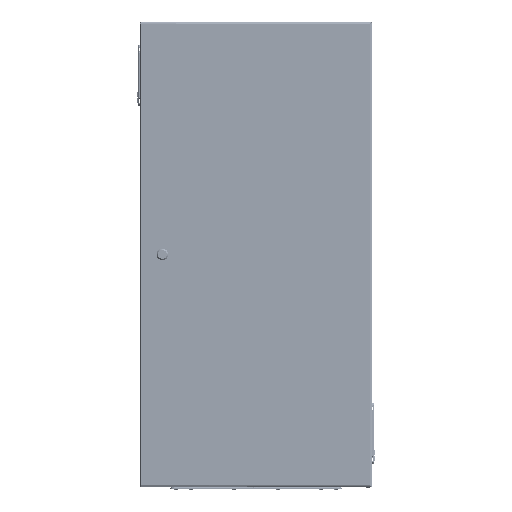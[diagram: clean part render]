
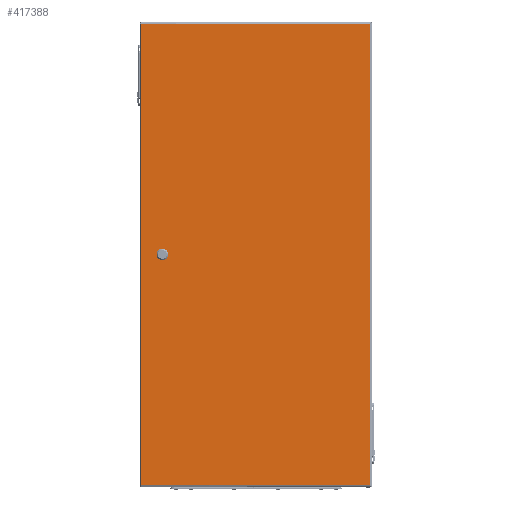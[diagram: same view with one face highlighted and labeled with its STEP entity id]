
A CAD part, top view. The second image highlights one B-rep face of the part: STEP entity #417388.
In plain terms, the highlighted planar face has unit normal (0, 0, 1).
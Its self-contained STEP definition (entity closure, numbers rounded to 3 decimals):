
#387 = LINE ( 'NONE', #442591, #212813 ) ;
#4800 = ORIENTED_EDGE ( 'NONE', *, *, #489202, .F. ) ;
#6138 = DIRECTION ( 'NONE',  ( 1., 0., 0. ) ) ;
#9832 = CARTESIAN_POINT ( 'NONE',  ( -251.6, -5.6, 250. ) ) ;
#21817 = EDGE_LOOP ( 'NONE', ( #524160, #541629, #71434, #228956 ) ) ;
#23372 = FACE_OUTER_BOUND ( 'NONE', #21817, .T. ) ;
#33287 = LINE ( 'NONE', #436936, #366186 ) ;
#33573 = VECTOR ( 'NONE', #6138, 1000. ) ;
#35111 = VERTEX_POINT ( 'NONE', #442048 ) ;
#53249 = VERTEX_POINT ( 'NONE', #526191 ) ;
#55125 = LINE ( 'NONE', #414525, #283568 ) ;
#71434 = ORIENTED_EDGE ( 'NONE', *, *, #151788, .T. ) ;
#75695 = DIRECTION ( 'NONE',  ( -0.707, -0.707, 0. ) ) ;
#76095 = ORIENTED_EDGE ( 'NONE', *, *, #237128, .F. ) ;
#78831 = LINE ( 'NONE', #391052, #235443 ) ;
#80741 = VECTOR ( 'NONE', #573701, 1000. ) ;
#83185 = DIRECTION ( 'NONE',  ( 0., -1., 0. ) ) ;
#84765 = DIRECTION ( 'NONE',  ( -1., 0., 0. ) ) ;
#90523 = CARTESIAN_POINT ( 'NONE',  ( -247.1, 10.1, 250. ) ) ;
#105410 = CARTESIAN_POINT ( 'NONE',  ( -296.959, -595.1, 250. ) ) ;
#111850 = PLANE ( 'NONE',  #332494 ) ;
#146859 = VECTOR ( 'NONE', #75695, 1000. ) ;
#151788 = EDGE_CURVE ( 'NONE', #520123, #460528, #373421, .T. ) ;
#152974 = DIRECTION ( 'NONE',  ( 0.707, 0.707, 0. ) ) ;
#161087 = CARTESIAN_POINT ( 'NONE',  ( -235.9, 10.1, 250. ) ) ;
#168709 = DIRECTION ( 'NONE',  ( 0., 1., 0. ) ) ;
#178777 = LINE ( 'NONE', #90523, #307367 ) ;
#179529 = CARTESIAN_POINT ( 'NONE',  ( -235.9, 10.1, 250. ) ) ;
#188746 = CARTESIAN_POINT ( 'NONE',  ( -247.1, -10.1, 250. ) ) ;
#189459 = CARTESIAN_POINT ( 'NONE',  ( -295.6, 595.1, 250. ) ) ;
#198558 = CARTESIAN_POINT ( 'NONE',  ( -295.6, -595.1, 250. ) ) ;
#200145 = CARTESIAN_POINT ( 'NONE',  ( -235.9, -10.1, 250. ) ) ;
#212813 = VECTOR ( 'NONE', #83185, 1000. ) ;
#214592 = DIRECTION ( 'NONE',  ( 1., 0., 0. ) ) ;
#224221 = LINE ( 'NONE', #188746, #33573 ) ;
#225584 = ORIENTED_EDGE ( 'NONE', *, *, #495076, .F. ) ;
#225978 = VECTOR ( 'NONE', #489558, 1000. ) ;
#228956 = ORIENTED_EDGE ( 'NONE', *, *, #414269, .T. ) ;
#234319 = VERTEX_POINT ( 'NONE', #237969 ) ;
#235443 = VECTOR ( 'NONE', #532411, 1000. ) ;
#237128 = EDGE_CURVE ( 'NONE', #234319, #258181, #371847, .T. ) ;
#237791 = DIRECTION ( 'NONE',  ( 1., 0., 0. ) ) ;
#237969 = CARTESIAN_POINT ( 'NONE',  ( -251.6, 5.6, 250. ) ) ;
#248640 = EDGE_LOOP ( 'NONE', ( #225584, #402489, #4800, #285029, #294332, #298988, #76095, #318426 ) ) ;
#249879 = VERTEX_POINT ( 'NONE', #189459 ) ;
#254612 = CARTESIAN_POINT ( 'NONE',  ( -247.1, -10.1, 250. ) ) ;
#258181 = VERTEX_POINT ( 'NONE', #9832 ) ;
#259238 = EDGE_CURVE ( 'NONE', #249879, #520123, #387, .T. ) ;
#283568 = VECTOR ( 'NONE', #370248, 1000. ) ;
#285029 = ORIENTED_EDGE ( 'NONE', *, *, #417303, .F. ) ;
#288878 = EDGE_CURVE ( 'NONE', #477936, #249879, #55125, .T. ) ;
#293739 = LINE ( 'NONE', #523462, #146859 ) ;
#294332 = ORIENTED_EDGE ( 'NONE', *, *, #472245, .F. ) ;
#298988 = ORIENTED_EDGE ( 'NONE', *, *, #370490, .F. ) ;
#300153 = DIRECTION ( 'NONE',  ( 0., 0., 1. ) ) ;
#301375 = CARTESIAN_POINT ( 'NONE',  ( -235.9, -10.1, 250. ) ) ;
#307367 = VECTOR ( 'NONE', #84765, 1000. ) ;
#318426 = ORIENTED_EDGE ( 'NONE', *, *, #344651, .F. ) ;
#321776 = CARTESIAN_POINT ( 'NONE',  ( -251.6, 5.6, 250. ) ) ;
#332494 = AXIS2_PLACEMENT_3D ( 'NONE', #347244, #300153, #214592 ) ;
#341692 = VECTOR ( 'NONE', #152974, 1000. ) ;
#344651 = EDGE_CURVE ( 'NONE', #470289, #234319, #293739, .T. ) ;
#346685 = LINE ( 'NONE', #161087, #80741 ) ;
#347244 = CARTESIAN_POINT ( 'NONE',  ( -0.5, 0., 250. ) ) ;
#360489 = VECTOR ( 'NONE', #451633, 1000. ) ;
#362565 = LINE ( 'NONE', #448271, #225978 ) ;
#366186 = VECTOR ( 'NONE', #168709, 1000. ) ;
#370248 = DIRECTION ( 'NONE',  ( -1., 0., 0. ) ) ;
#370490 = EDGE_CURVE ( 'NONE', #258181, #581046, #78831, .T. ) ;
#371847 = LINE ( 'NONE', #321776, #360489 ) ;
#373421 = LINE ( 'NONE', #105410, #444735 ) ;
#378876 = CARTESIAN_POINT ( 'NONE',  ( 294.6, 595.1, 250. ) ) ;
#391052 = CARTESIAN_POINT ( 'NONE',  ( -251.6, -5.6, 250. ) ) ;
#402489 = ORIENTED_EDGE ( 'NONE', *, *, #483470, .F. ) ;
#414269 = EDGE_CURVE ( 'NONE', #460528, #477936, #33287, .T. ) ;
#414525 = CARTESIAN_POINT ( 'NONE',  ( 295.959, 595.1, 250. ) ) ;
#417303 = EDGE_CURVE ( 'NONE', #468423, #35111, #509623, .T. ) ;
#417388 = ADVANCED_FACE ( 'NONE', ( #515428, #23372 ), #111850, .T. ) ;
#436936 = CARTESIAN_POINT ( 'NONE',  ( 294.6, -596.459, 250. ) ) ;
#442048 = CARTESIAN_POINT ( 'NONE',  ( -231.4, -5.6, 250. ) ) ;
#442591 = CARTESIAN_POINT ( 'NONE',  ( -295.6, 596.459, 250. ) ) ;
#444735 = VECTOR ( 'NONE', #237791, 1000. ) ;
#448271 = CARTESIAN_POINT ( 'NONE',  ( -231.4, 5.6, 250. ) ) ;
#451346 = VERTEX_POINT ( 'NONE', #179529 ) ;
#451633 = DIRECTION ( 'NONE',  ( 0., -1., 0. ) ) ;
#460528 = VERTEX_POINT ( 'NONE', #569488 ) ;
#468423 = VERTEX_POINT ( 'NONE', #301375 ) ;
#470289 = VERTEX_POINT ( 'NONE', #534724 ) ;
#472245 = EDGE_CURVE ( 'NONE', #581046, #468423, #224221, .T. ) ;
#477936 = VERTEX_POINT ( 'NONE', #378876 ) ;
#483470 = EDGE_CURVE ( 'NONE', #53249, #451346, #346685, .T. ) ;
#489202 = EDGE_CURVE ( 'NONE', #35111, #53249, #362565, .T. ) ;
#489558 = DIRECTION ( 'NONE',  ( 0., 1., 0. ) ) ;
#495076 = EDGE_CURVE ( 'NONE', #451346, #470289, #178777, .T. ) ;
#509623 = LINE ( 'NONE', #200145, #341692 ) ;
#515428 = FACE_BOUND ( 'NONE', #248640, .T. ) ;
#520123 = VERTEX_POINT ( 'NONE', #198558 ) ;
#523462 = CARTESIAN_POINT ( 'NONE',  ( -251.6, 5.6, 250. ) ) ;
#524160 = ORIENTED_EDGE ( 'NONE', *, *, #288878, .T. ) ;
#526191 = CARTESIAN_POINT ( 'NONE',  ( -231.4, 5.6, 250. ) ) ;
#532411 = DIRECTION ( 'NONE',  ( 0.707, -0.707, 0. ) ) ;
#534724 = CARTESIAN_POINT ( 'NONE',  ( -247.1, 10.1, 250. ) ) ;
#541629 = ORIENTED_EDGE ( 'NONE', *, *, #259238, .T. ) ;
#569488 = CARTESIAN_POINT ( 'NONE',  ( 294.6, -595.1, 250. ) ) ;
#573701 = DIRECTION ( 'NONE',  ( -0.707, 0.707, 0. ) ) ;
#581046 = VERTEX_POINT ( 'NONE', #254612 ) ;
